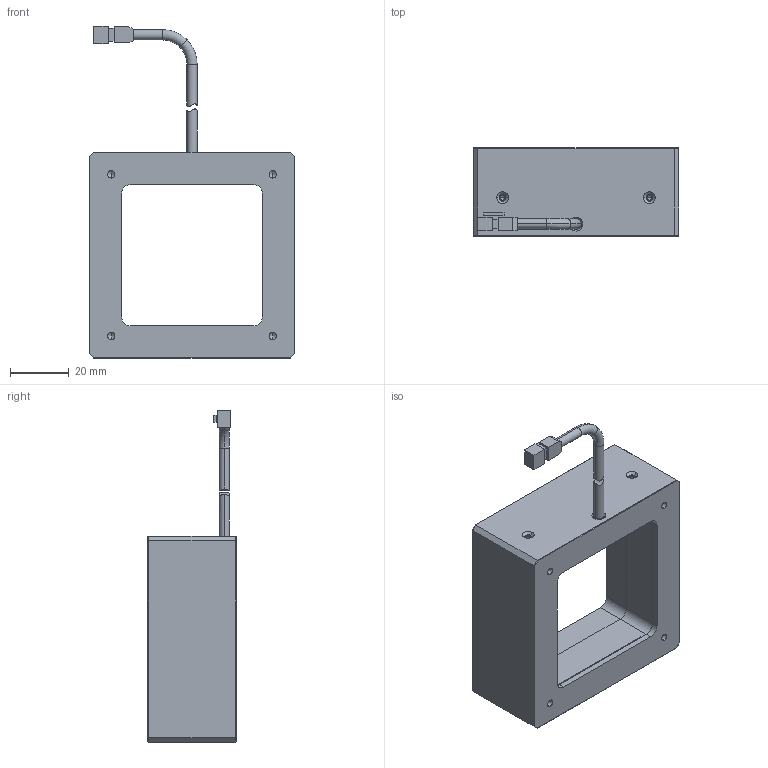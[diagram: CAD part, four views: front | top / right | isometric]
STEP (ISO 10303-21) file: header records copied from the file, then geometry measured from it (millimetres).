
FILE_DESCRIPTION((''),'2;1');
FILE_NAME('CST-FQS70_ASM','2022-04-11T18:07:41',('Administrator'),(''),'CREO PARAMETRIC BY PTC INC, 2016510','CREO PARAMETRIC BY PTC INC, 2016510','');
FILE_SCHEMA(('CONFIG_CONTROL_DESIGN'));
Length unit declared in the file: millimetre
Products named in the file (1): CST-FQS70_ASM
Bounding box: 70 x 30 x 113 mm (x, y, z)
Volume: 53949.7 mm3; surface area: 43632 mm2
Topology: 5 solids, 5 shells, 223 faces, 556 edges, 344 vertices
Faces by surface type: plane 119, cylinder 68, cone 30, torus 4, extrusion 2
Entity records: 6643 total; most frequent: CARTESIAN_POINT 1234, DIRECTION 1132, ORIENTED_EDGE 1080, EDGE_CURVE 540, VECTOR 386, LINE 384, AXIS2_PLACEMENT_3D 373, VERTEX_POINT 344
